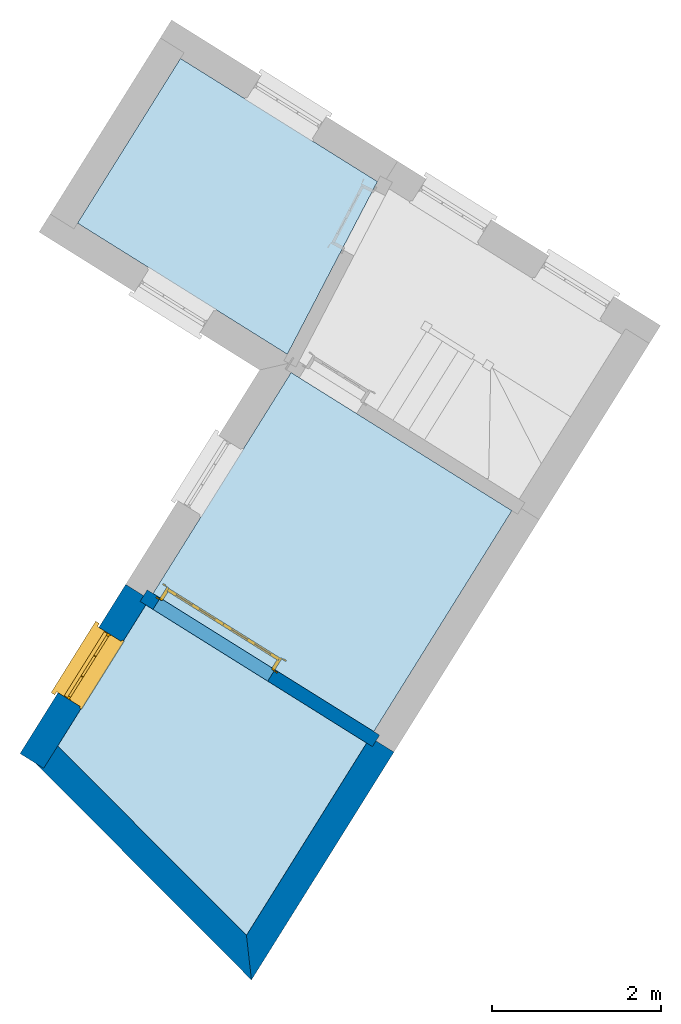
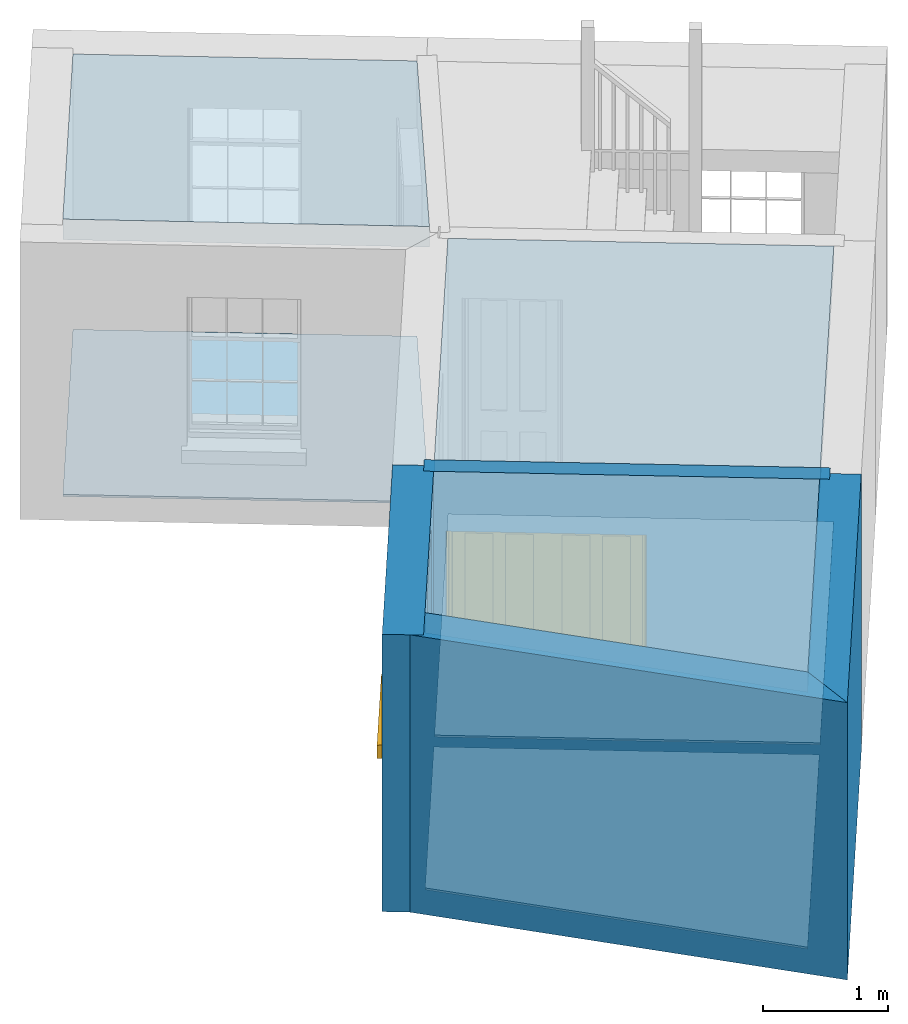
# One storey, part 1 of 4: 6 slabs, 4 walls, 1 door, 1 window, 2 openings.
"""IFC4 building model written with IfcOpenShell, lengths in metres."""

from ifc_helpers import new_model, si_unit, frame, origin, origin_with_axes, place, context, subcontext, project, spatial, polyline, outline, extrude, faceted_brep, source, transform, mapped, material, layer, layer_set, layer_usage, type_object, type_shapes, element, fill, save


model = new_model("IFC4")

# Units and contexts
model_context = context("Model", 3, world=origin_with_axes())
body_context = subcontext(model_context, "Body", "Model", "MODEL_VIEW")
ifc_project = project(units=[si_unit("PLANEANGLEUNIT", "RADIAN"), si_unit("MASSUNIT", "GRAM", prefix="KILO"), si_unit("FORCEUNIT", "NEWTON", prefix="KILO"), si_unit("LENGTHUNIT", "METRE"), si_unit("AREAUNIT", "SQUARE_METRE"), si_unit("VOLUMEUNIT", "CUBIC_METRE")], contexts=[model_context, model_context])

# Sites, building, storey
site_1_placement = place(None, origin_with_axes())
site_1 = spatial("IfcSite", under=ifc_project, at=site_1_placement, Name="Tamar")
site_2_placement = place(site_1_placement, origin_with_axes())
site_2 = spatial("IfcSite", under=site_1, at=site_2_placement, Name="Site plot-3", CompositionType="ELEMENT")
building_placement = place(None, origin_with_axes())
building = spatial("IfcBuilding", under=site_2, at=building_placement, Name="Building plot-3", CompositionType="ELEMENT")
storey_placement = place(None, frame((0.0, 0.0, 27.8), z_axis=(0.0, 0.0, 1.0), x_axis=(1.0, 0.0, 0.0)))
storey = spatial("IfcBuildingStorey", under=building, at=storey_placement, Name="plot-3 1", CompositionType="ELEMENT", Elevation=27.8)

# Slabs
slab_1_placement = place(storey_placement, frame((217.333583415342, 288.215514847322, 2.5)))
element("IfcSlab", 1, at=slab_1_placement, inside=storey, Name="My Slab", ObjectType="Slab", PredefinedType="FLOOR", context=body_context, shape_type="SweptSolid", body=[
    extrude(outline(polyline([(0.0, 0.0), (-2.32896868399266, 1.45571072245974), (-3.54615549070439, -0.49164730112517), (-1.06538868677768, -2.04223871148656), (0.0, 0.0)])), origin_with_axes(), (0.0, 0.0, 1.0), 0.2),
])
slab_2_placement = place(storey_placement, frame((217.333583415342, 288.215514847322, 0.0)))
element("IfcSlab", 2, at=slab_2_placement, inside=storey, Name="My Slab", ObjectType="Slab", PredefinedType="FLOOR", context=body_context, shape_type="SweptSolid", body=[
    extrude(outline(polyline([(0.0, 0.0), (-2.32896868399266, 1.45571072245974), (-3.54615549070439, -0.49164730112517), (-1.06538868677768, -2.04223871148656), (0.0, 0.0)])), origin_with_axes(), (0.0, 0.0, 1.0), 0.02),
])
slab_3_placement = place(storey_placement, frame((218.924084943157, 284.324541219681, 2.5)))
element("IfcSlab", 3, at=slab_3_placement, inside=storey, Name="My Slab", ObjectType="Slab", PredefinedType="FLOOR", context=body_context, shape_type="SweptSolid", body=[
    extrude(outline(polyline([(0.0, 0.0), (-2.61166919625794, 1.63241132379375), (-4.24446656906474, -0.979875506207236), (-1.63279737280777, -2.61228683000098), (0.0, 0.0)])), origin_with_axes(), (0.0, 0.0, 1.0), 0.2),
])
slab_4_placement = place(storey_placement, frame((218.924084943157, 284.324541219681, 0.0)))
element("IfcSlab", 4, at=slab_4_placement, inside=storey, Name="My Slab", ObjectType="Slab", PredefinedType="FLOOR", context=body_context, shape_type="SweptSolid", body=[
    extrude(outline(polyline([(0.0, 0.0), (-2.61166919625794, 1.63241132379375), (-4.24446656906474, -0.979875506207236), (-1.63279737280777, -2.61228683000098), (0.0, 0.0)])), origin_with_axes(), (0.0, 0.0, 1.0), 0.02),
])
slab_5_placement = place(storey_placement, frame((214.594814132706, 283.208988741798, 2.5)))
element("IfcSlab", 5, at=slab_5_placement, inside=storey, Name="My Slab", ObjectType="Slab", PredefinedType="FLOOR", context=body_context, shape_type="SweptSolid", body=[
    extrude(outline(polyline([(0.0, 0.0), (-1.04163771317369, -1.66649979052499), (1.1898205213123, -3.90720465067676), (2.611669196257, -1.63241132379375), (0.0, 0.0)])), origin_with_axes(), (0.0, 0.0, 1.0), 0.2),
])
slab_6_placement = place(storey_placement, frame((214.594814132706, 283.208988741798, 0.0)))
element("IfcSlab", 6, at=slab_6_placement, inside=storey, Name="My Slab", ObjectType="Slab", PredefinedType="FLOOR", context=body_context, shape_type="SweptSolid", body=[
    extrude(outline(polyline([(0.0, 0.0), (-1.04163771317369, -1.66649979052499), (1.1898205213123, -3.90720465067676), (2.611669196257, -1.63241132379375), (0.0, 0.0)])), origin_with_axes(), (0.0, 0.0, 1.0), 0.02),
])

# Wall, opening, window
ifc_material_1 = material(Name="Masonry")
ifc_layer_1 = layer(ifc_material_1, 0.33, ventilated=False)
ifc_layer_set_1 = layer_set([ifc_layer_1], Name="exterior_0.08_0.25")
ifc_layer_usage_1 = layer_usage(ifc_layer_set_1, "AXIS2", "POSITIVE", -0.25)
wall_type_1 = type_object("IfcWallType", Name="exterior_0.08_0.25", PredefinedType="SOLIDWALL", material=ifc_layer_set_1)
wall_1_placement = place(storey_placement, frame((214.569377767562, 283.319229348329, 0.0), z_axis=(0.0, 0.0, 1.0), x_axis=(-0.530026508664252, -0.847981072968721, 0.0)))
wall_1 = element("IfcWall", 7, at=wall_1_placement, inside=storey, type_object=wall_type_1, material=ifc_layer_usage_1, Name="exterior", context=body_context, shape_type="SweptSolid", body=[
    extrude(outline(polyline([(-3.21312274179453e-14, 0.0799999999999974), (1.53892219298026e-13, -0.249999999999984), (2.35876407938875, -0.250000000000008), (2.35876407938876, 0.0799999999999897), (-3.21312274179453e-14, 0.0799999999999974)])), origin_with_axes(), (0.0, 0.0, 1.0), 2.7),
])
opening_1_placement = place(wall_1_placement, frame((0.599382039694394, 0.0, 1.05)))
opening_1 = element("IfcOpeningElement", 8, at=opening_1_placement, cuts=wall_1, Name="My Opening", ObjectType="Opening", context=body_context, shape_type="SweptSolid", body=[
    extrude(outline(polyline([(0.0, -0.269999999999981), (0.909999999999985, -0.270000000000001), (0.909999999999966, 1.09999999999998), (-1.92068583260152e-14, 1.1), (0.0, -0.269999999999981)])), origin_with_axes(), (0.0, 0.0, 1.0), 1.445),
])
window_type = type_object("IfcWindowType", Name="sash_shorter", PartitioningType="DOUBLE_PANEL_HORIZONTAL", PredefinedType="NOTDEFINED")
shared_shape_1 = source(origin(), body_context, "Body", "Brep", [
    faceted_brep([(0.876875, 0.145, 0.999097), (0.876875, 0.145, 1.411875), (0.9, 0.145, 1.435), (0.033125, 0.145, 1.411875), (0.033125, 0.145, 0.999097), (0.01, 0.145, 1.435), (0.033125, 0.115, 1.411875), (0.01, 0.115, 1.435), (0.033125, 0.115, 0.999097), (0.876875, 0.115, 1.411875), (0.876875, 0.115, 0.999097), (0.9, 0.115, 1.435), (0.033125, 0.145, 0.960972), (0.01, 0.145, 0.960972), (0.033125, 0.145, 0.548195), (0.876875, 0.145, 0.960972), (0.876875, 0.145, 0.548195), (0.9, 0.145, 0.960972), (0.876875, 0.145, 0.538195), (0.876875, 0.145, 0.125417), (0.9, 0.145, 0.077167), (0.033125, 0.145, 0.125417), (0.033125, 0.145, 0.538195), (0.01, 0.145, 0.077167), (0.9, 0.115, 0.960972), (0.01, 0.115, 0.960972), (-0.0425, 0.0, 0.01), (-0.0425, -0.05, 0.001667), (0.0, 0.0, 0.01), (0.9525, 0.0, 0.01), (0.91, 0.0, 0.01), (0.9525, -0.05, 0.001667), (-0.02, 0.33, 0.077167), (0.0, 0.33, 0.077167), (-0.02, 0.36, 0.077167), (0.0, 0.19, 0.077167), (0.01, 0.19, 0.077167), (0.91, 0.19, 0.077167), (0.91, 0.33, 0.077167), (0.9, 0.19, 0.077167), (0.93, 0.33, 0.077167), (0.93, 0.36, 0.077167), (0.01, 0.145, 0.999097), (0.01, 0.175, 0.999097), (0.9, 0.145, 0.999097), (0.9, 0.175, 0.999097), (0.876875, 0.175, 0.125417), (0.876875, 0.175, 0.538195), (0.9, 0.175, 0.077167), (0.876875, 0.175, 0.548195), (0.876875, 0.175, 0.960972), (0.033125, 0.175, 0.125417), (0.01, 0.175, 0.077167), (0.033125, 0.175, 0.538195), (0.033125, 0.175, 0.960972), (0.033125, 0.175, 0.548195), (-0.02, 0.33, 0.052167), (-0.02, 0.36, 0.052167), (0.93, 0.36, 0.052167), (0.93, 0.33, 0.052167), (0.91, 0.33, 0.052167), (0.0, 0.33, 0.052167), (0.91, 0.1, 0.026667), (0.0, 0.1, 0.026667), (-0.0425, -0.05, -0.123333), (0.9525, -0.05, -0.123333), (-0.0425, 0.0, -0.123333), (0.9525, 0.0, -0.123333), (0.01, 0.19, 1.435), (0.9, 0.19, 1.435), (0.0, 0.19, 1.445), (0.91, 0.19, 1.445), (0.01, 0.1, 0.077167), (0.9, 0.1, 0.077167), (0.592292, 0.145, 0.125417), (0.592292, 0.175, 0.125417), (0.317708, 0.175, 0.125417), (0.317708, 0.145, 0.125417), (0.592292, 0.145, 0.548195), (0.317708, 0.145, 0.548195), (0.317708, 0.145, 0.538195), (0.592292, 0.145, 0.538195), (0.592292, 0.175, 0.548195), (0.317708, 0.175, 0.548195), (0.602292, 0.175, 0.548195), (0.602292, 0.145, 0.548195), (0.317708, 0.175, 0.538195), (0.307708, 0.175, 0.125417), (0.307708, 0.175, 0.538195), (0.602292, 0.175, 0.538195), (0.602292, 0.175, 0.125417), (0.592292, 0.175, 0.538195), (0.307708, 0.175, 0.548195), (0.317708, 0.175, 0.960972), (0.307708, 0.175, 0.960972), (0.602292, 0.175, 0.960972), (0.592292, 0.175, 0.960972), (0.307708, 0.145, 0.538195), (0.307708, 0.145, 0.125417), (0.307708, 0.145, 0.548195), (0.307708, 0.145, 0.960972), (0.592292, 0.145, 0.960972), (0.317708, 0.145, 0.960972), (0.602292, 0.145, 0.960972), (0.602292, 0.145, 0.538195), (0.602292, 0.145, 0.125417), (0.317708, 0.115, 1.411875), (0.307708, 0.115, 1.411875), (0.307708, 0.115, 0.999097), (0.317708, 0.115, 0.999097), (0.602292, 0.115, 1.411875), (0.592292, 0.115, 1.411875), (0.592292, 0.115, 0.999097), (0.602292, 0.115, 0.999097), (0.317708, 0.145, 0.999097), (0.307708, 0.145, 0.999097), (0.307708, 0.145, 1.411875), (0.317708, 0.145, 1.411875), (0.602292, 0.145, 0.999097), (0.592292, 0.145, 0.999097), (0.592292, 0.145, 1.411875), (0.602292, 0.145, 1.411875), (0.91, 0.1, 1.445), (0.9, 0.1, 1.435), (0.01, 0.1, 1.435), (0.0, 0.1, 1.445), (0.91, 0.0, 0.0), (0.0, 0.0, 0.0), (0.91, 0.33, 0.0), (0.0, 0.33, 0.0)], [[[0, 1, 2]], [[3, 4, 5]], [[6, 7, 8]], [[9, 10, 11]], [[12, 13, 14]], [[15, 16, 17]], [[18, 19, 20]], [[21, 22, 23]], [[24, 15, 17]], [[13, 12, 25]], [[26, 27, 28]], [[29, 30, 31]], [[32, 33, 34]], [[35, 36, 33]], [[37, 38, 39]], [[40, 41, 38]], [[42, 4, 43]], [[44, 45, 0]], [[46, 47, 48]], [[49, 50, 45]], [[51, 52, 53]], [[54, 55, 43]], [[38, 33, 36, 39]], [[41, 34, 33, 38]], [[56, 32, 34, 57]], [[57, 34, 41, 58]], [[58, 41, 40, 59]], [[57, 58, 60, 61]], [[52, 48, 39, 36]], [[62, 63, 28, 30]], [[27, 31, 30, 28]], [[27, 64, 65, 31]], [[66, 67, 65, 64]], [[2, 5, 68, 69]], [[68, 70, 71, 69]], [[20, 23, 72, 73]], [[73, 72, 63, 62]], [[74, 75, 76, 77]], [[78, 79, 80, 81]], [[78, 82, 83, 79]], [[16, 49, 84, 85]], [[86, 76, 87, 88]], [[89, 90, 75, 91]], [[92, 88, 53, 55]], [[82, 91, 86, 83]], [[93, 83, 92, 94]], [[95, 84, 82, 96]], [[89, 84, 49, 47]], [[97, 88, 87, 98]], [[22, 53, 88, 97]], [[81, 91, 75, 74]], [[80, 86, 91, 81]], [[77, 76, 86, 80]], [[99, 92, 55, 14]], [[100, 94, 92, 99]], [[101, 96, 82, 78]], [[79, 83, 93, 102]], [[85, 84, 95, 103]], [[104, 89, 47, 18]], [[105, 90, 89, 104]], [[104, 18, 16, 85]], [[80, 97, 98, 77]], [[104, 81, 74, 105]], [[103, 101, 78, 85]], [[99, 14, 22, 97]], [[102, 100, 99, 79]], [[106, 107, 108, 109]], [[110, 111, 112, 113]], [[114, 115, 116, 117]], [[118, 119, 120, 121]], [[107, 116, 115, 108]], [[111, 120, 119, 112]], [[109, 114, 117, 106]], [[113, 118, 121, 110]], [[85, 78, 81, 104]], [[84, 89, 91, 82]], [[83, 86, 88, 92]], [[79, 99, 97, 80]], [[109, 112, 119, 114]], [[102, 93, 96, 101]], [[106, 117, 120, 111]], [[98, 87, 51, 21]], [[6, 3, 116, 107]], [[110, 121, 1, 9]], [[19, 46, 90, 105]], [[26, 66, 64, 27]], [[29, 31, 65, 67]], [[25, 24, 112, 109]], [[11, 7, 106, 111]], [[75, 48, 52, 76]], [[43, 45, 96, 93]], [[45, 43, 114, 119]], [[5, 2, 120, 117]], [[24, 25, 102, 101]], [[42, 5, 4]], [[2, 44, 0]], [[49, 45, 48, 47]], [[52, 43, 55, 53]], [[14, 13, 23, 22]], [[20, 17, 16, 18]], [[24, 11, 10]], [[25, 8, 7]], [[8, 4, 3, 6]], [[9, 1, 0, 10]], [[15, 50, 49, 16]], [[18, 47, 46, 19]], [[21, 51, 53, 22]], [[14, 55, 54, 12]], [[44, 2, 69, 45]], [[68, 5, 42, 43]], [[36, 35, 70, 68]], [[39, 69, 71, 37]], [[62, 122, 123, 73]], [[63, 72, 124, 125]], [[8, 108, 115, 4]], [[113, 10, 0, 118]], [[94, 100, 12, 54]], [[17, 20, 73, 24]], [[72, 23, 13, 25]], [[52, 36, 68, 43]], [[69, 39, 48, 45]], [[11, 24, 73, 123]], [[7, 124, 72, 25]], [[23, 77, 98]], [[98, 21, 23]], [[105, 74, 20]], [[20, 19, 105]], [[20, 74, 77, 23]], [[113, 112, 24]], [[24, 10, 113]], [[25, 109, 108]], [[108, 8, 25]], [[110, 9, 11]], [[11, 111, 110]], [[7, 6, 107]], [[107, 106, 7]], [[5, 117, 116]], [[116, 3, 5]], [[121, 120, 2]], [[2, 1, 121]], [[11, 123, 124, 7]], [[122, 125, 124, 123]], [[43, 93, 94]], [[94, 54, 43]], [[96, 45, 95]], [[50, 95, 45]], [[15, 103, 95, 50]], [[48, 75, 90]], [[90, 46, 48]], [[87, 76, 52]], [[52, 51, 87]], [[103, 15, 24]], [[24, 101, 103]], [[100, 102, 25]], [[25, 12, 100]], [[115, 114, 43]], [[43, 4, 115]], [[118, 0, 45]], [[45, 119, 118]], [[71, 70, 125, 122]], [[70, 35, 63, 125]], [[122, 62, 37, 71]], [[126, 67, 66, 127]], [[60, 58, 59]], [[38, 60, 59, 40]], [[61, 56, 57]], [[32, 56, 61, 33]], [[61, 60, 128, 129]], [[62, 60, 38, 37]], [[126, 128, 60, 62]], [[33, 61, 63, 35]], [[61, 129, 127, 63]], [[128, 126, 127, 129]], [[28, 127, 66, 26]], [[63, 127, 28]], [[29, 67, 126, 30]], [[30, 126, 62]]]),
])
type_shapes(window_type, [shared_shape_1])
window_placement = place(storey_placement, frame((214.022734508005, 282.95407188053, 1.05), z_axis=(0.0, 0.0, 1.0), x_axis=(-0.482324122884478, -0.771662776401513, 0.0)))
window = element("IfcWindow", 9, at=window_placement, inside=storey, type_object=window_type, Name="kitchen outside window", OverallHeight=1.445, OverallWidth=0.91, context=body_context, shape_type="MappedRepresentation", body=[
    mapped(shared_shape_1, transform((0.0, 0.0, 0.0), scale=1.0)),
])
fill(opening_1, window)

# Walls
ifc_material_2 = material(Name="Masonry")
ifc_layer_2 = layer(ifc_material_2, 0.33, ventilated=False)
ifc_layer_set_2 = layer_set([ifc_layer_2], Name="party_0.08_0.25")
ifc_layer_usage_2 = layer_usage(ifc_layer_set_2, "AXIS2", "POSITIVE", -0.25)
wall_type_2 = type_object("IfcWallType", Name="party_0.08_0.25", PredefinedType="SOLIDWALL", material=ifc_layer_set_2)
wall_2_placement = place(storey_placement, frame((213.451676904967, 281.531037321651, 0.0), z_axis=(0.0, 0.0, 1.0), x_axis=(0.705643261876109, -0.70856727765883, 0.0)))
element("IfcWall", 10, at=wall_2_placement, inside=storey, type_object=wall_type_2, material=ifc_layer_usage_2, Name="party", context=body_context, shape_type="SweptSolid", body=[
    extrude(outline(polyline([(1.14801637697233e-14, 0.0800000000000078), (-1.60331358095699e-14, -0.249999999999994), (3.64150616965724, -0.250000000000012), (3.22581180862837, 0.0799999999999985), (1.14801637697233e-14, 0.0800000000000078)])), origin_with_axes(), (0.0, 0.0, 1.0), 2.7),
])
wall_3_placement = place(storey_placement, frame((215.799060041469, 279.1739271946, 0.0), z_axis=(0.0, 0.0, 1.0), x_axis=(0.530026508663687, 0.847981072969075, 0.0)))
element("IfcWall", 11, at=wall_3_placement, inside=storey, type_object=wall_type_2, material=ifc_layer_usage_2, Name="party", context=body_context, shape_type="SweptSolid", body=[
    extrude(outline(polyline([(0.100774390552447, 0.0800000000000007), (-0.314919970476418, -0.250000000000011), (2.86337356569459, -0.250000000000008), (2.86337356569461, 0.0799999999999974), (0.100774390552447, 0.0800000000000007)])), origin_with_axes(), (0.0, 0.0, 1.0), 2.7),
])

# Wall, opening, door
ifc_material_3 = material(Name="Masonry")
ifc_layer_3 = layer(ifc_material_3, 0.16, ventilated=False)
ifc_layer_set_3 = layer_set([ifc_layer_3], Name="interior_0.08_0.08")
ifc_layer_usage_3 = layer_usage(ifc_layer_set_3, "AXIS2", "POSITIVE", -0.08)
wall_type_3 = type_object("IfcWallType", Name="interior_0.08_0.08", PredefinedType="SOLIDWALL", material=ifc_layer_set_3)
wall_4_placement = place(storey_placement, frame((214.569377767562, 283.319229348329, 0.0), z_axis=(0.0, 0.0, 1.0), x_axis=(0.847981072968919, -0.530026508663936, 0.0)))
wall_4 = element("IfcWall", 12, at=wall_4_placement, inside=storey, type_object=wall_type_3, material=ifc_layer_usage_3, Name="interior", context=body_context, shape_type="SweptSolid", body=[
    extrude(outline(polyline([(-2.30436530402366e-15, 0.0799999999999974), (2.25904099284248e-15, -0.0799999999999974), (3.23986732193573, -0.0799999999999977), (3.23986732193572, 0.0799999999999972), (-2.30436530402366e-15, 0.0799999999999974)])), origin_with_axes(), (0.0, 0.0, 1.0), 2.7),
])
opening_2_placement = place(wall_4_placement, frame((0.179999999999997, 0.0, 0.0199999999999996)))
opening_2 = element("IfcOpeningElement", 13, at=opening_2_placement, cuts=wall_4, Name="My Opening", ObjectType="Opening", context=body_context, shape_type="SweptSolid", body=[
    extrude(outline(polyline([(0.0, -0.0999999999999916), (1.59999999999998, -0.0999999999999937), (1.59999999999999, 1.1), (1.35447209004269e-14, 1.1), (0.0, -0.0999999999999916)])), origin_with_axes(), (0.0, 0.0, 1.0), 2.1),
])
door_type = type_object("IfcDoorType", Name="door_inside_double", OperationType="SINGLE_SWING_LEFT", PredefinedType="NOTDEFINED")
shared_shape_2 = source(origin(), body_context, "Body", "Brep", [
    faceted_brep([(0.14, 0.307, 1.895), (0.14, 0.307, 0.82), (0.363, 0.307, 0.82), (0.363, 0.307, 1.895), (0.14, 0.292, 1.895), (0.14, 0.292, 0.82), (0.363, 0.292, 0.82), (0.363, 0.292, 1.895), (0.027, 0.292, 1.895), (0.027, 0.292, 0.82), (0.363, 0.292, 0.62), (0.14, 0.292, 0.62), (0.463, 0.292, 0.82), (0.463, 0.292, 1.895), (0.363, 0.292, 2.073), (0.14, 0.292, 2.073), (0.027, 0.292, 2.073), (0.027, 0.33, 1.895), (0.027, 0.33, 0.82), (0.027, 0.292, 0.62), (0.463, 0.292, 0.62), (0.14, 0.307, 0.62), (0.363, 0.307, 0.62), (0.463, 0.307, 0.82), (0.463, 0.307, 1.895), (0.463, 0.292, 2.073), (0.14, 0.33, 2.073), (0.363, 0.33, 2.073), (0.027, 0.33, 2.073), (0.14, 0.33, 1.895), (0.14, 0.33, 0.82), (0.027, 0.33, 0.62), (0.027, 0.292, 0.225), (0.14, 0.292, 0.225), (0.363, 0.292, 0.225), (0.463, 0.292, 0.225), (0.686, 0.292, 0.62), (0.686, 0.292, 0.82), (0.14, 0.307, 0.225), (0.363, 0.307, 0.225), (0.686, 0.307, 0.82), (0.686, 0.307, 1.895), (0.686, 0.292, 1.895), (0.686, 0.292, 2.073), (0.463, 0.33, 2.073), (0.363, 0.33, 1.895), (0.14, 0.315, 1.895), (0.14, 0.315, 0.82), (0.14, 0.33, 0.62), (0.027, 0.33, 0.225), (0.027, 0.292, 0.0), (0.14, 0.292, 0.0), (0.363, 0.292, 0.0), (0.463, 0.292, 0.0), (0.463, 0.307, 0.225), (0.463, 0.307, 0.62), (0.686, 0.307, 0.62), (0.799, 0.292, 0.62), (0.799, 0.292, 0.82), (0.799, 0.292, 1.895), (0.799, 0.292, 2.073), (0.686, 0.33, 2.073), (0.463, 0.33, 1.895), (0.363, 0.315, 1.895), (0.363, 0.315, 0.82), (0.363, 0.33, 0.82), (0.363, 0.33, 0.62), (0.14, 0.33, 0.225), (0.027, 0.33, 0.0), (0.14, 0.33, 0.0), (0.363, 0.33, 0.0), (0.463, 0.33, 0.0), (0.686, 0.292, 0.0), (0.686, 0.292, 0.225), (0.686, 0.307, 0.225), (0.799, 0.292, 0.225), (0.799, 0.33, 0.62), (0.799, 0.33, 0.82), (0.799, 0.33, 1.895), (0.799, 0.33, 2.073), (0.686, 0.33, 1.895), (0.463, 0.33, 0.82), (0.463, 0.33, 0.62), (0.363, 0.315, 0.62), (0.14, 0.315, 0.62), (0.14, 0.315, 0.225), (0.363, 0.33, 0.225), (0.463, 0.33, 0.225), (0.686, 0.33, 0.0), (0.799, 0.292, 0.0), (0.799, 0.33, 0.225), (0.686, 0.33, 0.62), (0.686, 0.33, 0.82), (0.686, 0.315, 1.895), (0.463, 0.315, 1.895), (0.463, 0.315, 0.82), (0.363, 0.315, 0.225), (0.686, 0.33, 0.225), (0.799, 0.33, 0.0), (0.686, 0.315, 0.82), (0.463, 0.315, 0.62), (0.463, 0.315, 0.225), (0.686, 0.315, 0.62), (0.686, 0.315, 0.225), (1.46, 0.33, 1.895), (1.237, 0.33, 1.895), (1.237, 0.33, 2.073), (1.46, 0.33, 2.073), (1.46, 0.315, 1.895), (1.237, 0.315, 1.895), (1.137, 0.33, 1.895), (1.137, 0.33, 2.073), (1.237, 0.292, 2.073), (1.46, 0.292, 2.073), (1.573, 0.33, 1.895), (1.573, 0.33, 2.073), (1.46, 0.33, 0.82), (1.46, 0.315, 0.82), (1.237, 0.315, 0.82), (1.237, 0.33, 0.82), (1.137, 0.33, 0.82), (0.914, 0.33, 2.073), (0.914, 0.33, 1.895), (1.137, 0.292, 2.073), (1.237, 0.292, 1.895), (1.46, 0.292, 1.895), (1.573, 0.292, 2.073), (1.573, 0.33, 0.82), (1.573, 0.292, 1.895), (1.237, 0.33, 0.62), (1.137, 0.33, 0.62), (1.137, 0.315, 0.82), (1.137, 0.315, 1.895), (0.914, 0.292, 2.073), (0.914, 0.315, 1.895), (0.801, 0.33, 2.073), (0.801, 0.33, 1.895), (1.137, 0.292, 1.895), (1.237, 0.307, 1.895), (1.46, 0.307, 1.895), (1.573, 0.292, 0.82), (1.573, 0.33, 0.62), (1.46, 0.33, 0.62), (1.237, 0.33, 0.225), (1.137, 0.33, 0.225), (0.914, 0.33, 0.82), (0.914, 0.33, 0.62), (0.914, 0.315, 0.82), (0.801, 0.292, 2.073), (0.914, 0.292, 1.895), (0.801, 0.33, 0.82), (0.801, 0.292, 1.895), (1.137, 0.292, 0.82), (1.237, 0.292, 0.82), (1.237, 0.307, 0.82), (1.46, 0.307, 0.82), (1.46, 0.292, 0.82), (1.573, 0.292, 0.62), (1.573, 0.33, 0.225), (1.46, 0.33, 0.225), (1.46, 0.315, 0.62), (1.237, 0.315, 0.62), (1.237, 0.33, 0.0), (1.137, 0.33, 0.0), (1.137, 0.315, 0.225), (1.137, 0.315, 0.62), (1.237, 0.315, 0.225), (0.914, 0.315, 0.62), (0.801, 0.33, 0.62), (0.914, 0.307, 1.895), (1.137, 0.307, 1.895), (0.801, 0.292, 0.82), (1.137, 0.292, 0.62), (1.237, 0.292, 0.62), (1.137, 0.307, 0.82), (1.46, 0.292, 0.62), (1.573, 0.292, 0.225), (1.573, 0.33, 0.0), (1.46, 0.33, 0.0), (1.46, 0.315, 0.225), (1.237, 0.292, 0.0), (1.137, 0.292, 0.0), (0.914, 0.33, 0.225), (0.914, 0.33, 0.0), (0.914, 0.315, 0.225), (0.801, 0.33, 0.225), (0.801, 0.292, 0.62), (0.914, 0.292, 0.82), (0.914, 0.307, 0.82), (1.137, 0.292, 0.225), (1.237, 0.292, 0.225), (0.914, 0.292, 0.62), (1.46, 0.292, 0.225), (1.573, 0.292, 0.0), (1.46, 0.292, 0.0), (0.914, 0.292, 0.0), (0.801, 0.33, 0.0), (0.801, 0.292, 0.225), (1.237, 0.307, 0.225), (1.237, 0.307, 0.62), (1.137, 0.307, 0.62), (1.137, 0.307, 0.225), (1.46, 0.307, 0.62), (0.914, 0.307, 0.62), (1.46, 0.307, 0.225), (0.914, 0.292, 0.225), (0.801, 0.292, 0.0), (0.914, 0.307, 0.225), (0.02, 0.335, 0.0), (0.005, 0.34, 0.0), (0.005, 0.34, 2.095), (0.02, 0.335, 2.08), (0.02, 0.33, 0.0), (0.0, 0.335, 0.0), (0.0, 0.335, 2.1), (1.595, 0.34, 2.095), (1.58, 0.335, 2.08), (0.02, 0.33, 2.08), (0.0, 0.33, 0.0), (-0.032, 0.345, 0.0), (-0.032, 0.345, 2.132), (1.6, 0.335, 2.1), (1.595, 0.34, 0.0), (1.58, 0.335, 0.0), (1.58, 0.33, 2.08), (0.025, 0.33, 0.0), (0.025, 0.33, 2.075), (-0.04, 0.34, 0.0), (0.025, 0.29, 0.0), (0.0, 0.17, 0.0), (-0.04, 0.34, 2.14), (1.632, 0.345, 2.132), (1.6, 0.335, 0.0), (1.58, 0.33, 0.0), (1.575, 0.33, 2.075), (0.025, 0.29, 2.075), (-0.06, 0.33, 0.0), (0.035, 0.17, 0.0), (0.0, 0.17, 2.1), (0.0, 0.33, 2.1), (-0.04, 0.345, 0.0), (-0.04, 0.345, 2.14), (1.64, 0.34, 2.14), (1.632, 0.345, 0.0), (1.6, 0.33, 0.0), (1.575, 0.33, 0.0), (1.575, 0.29, 2.075), (0.04, 0.29, 0.0), (0.04, 0.29, 2.06), (-0.06, 0.345, 0.0), (-0.06, 0.33, 2.16), (0.015, 0.165, 0.0), (0.04, 0.17, 0.0), (-0.045, 0.17, 2.145), (-0.045, 0.17, 0.0), (1.6, 0.17, 2.1), (1.6, 0.33, 2.1), (-0.06, 0.345, 2.16), (1.64, 0.345, 2.14), (1.64, 0.34, 0.0), (1.6, 0.17, 0.0), (1.575, 0.29, 0.0), (1.56, 0.29, 2.06), (0.04, 0.17, 2.06), (1.66, 0.33, 2.16), (-0.017, 0.155, 0.0), (-0.025, 0.16, 0.0), (0.02, 0.16, 0.0), (0.035, 0.165, 0.0), (0.035, 0.17, 2.065), (1.645, 0.17, 2.145), (-0.045, 0.155, 2.145), (-0.045, 0.155, 0.0), (1.66, 0.345, 2.16), (1.64, 0.345, 0.0), (1.66, 0.33, 0.0), (1.565, 0.17, 0.0), (1.56, 0.29, 0.0), (1.56, 0.17, 2.06), (-0.017, 0.155, 2.117), (-0.025, 0.16, 2.125), (0.015, 0.165, 2.085), (0.02, 0.16, 2.08), (0.035, 0.165, 2.065), (1.565, 0.17, 2.065), (1.645, 0.17, 0.0), (1.645, 0.155, 2.145), (-0.025, 0.155, 0.0), (1.66, 0.345, 0.0), (1.585, 0.165, 0.0), (1.56, 0.17, 0.0), (1.617, 0.155, 2.117), (1.625, 0.16, 2.125), (-0.025, 0.155, 2.125), (1.585, 0.165, 2.085), (1.58, 0.16, 2.08), (1.565, 0.165, 2.065), (1.625, 0.16, 0.0), (1.645, 0.155, 0.0), (1.625, 0.155, 2.125), (1.617, 0.155, 0.0), (1.565, 0.165, 0.0), (1.58, 0.16, 0.0), (1.625, 0.155, 0.0)], [[[0, 1, 2, 3]], [[1, 0, 4, 5]], [[2, 1, 5, 6]], [[6, 7, 3, 2]], [[7, 4, 0, 3]], [[4, 8, 9, 5]], [[10, 6, 5, 11]], [[6, 12, 13, 7]], [[14, 15, 4, 7]], [[15, 16, 8, 4]], [[9, 8, 17, 18]], [[5, 9, 19, 11]], [[10, 20, 12, 6]], [[10, 11, 21, 22]], [[13, 12, 23, 24]], [[7, 13, 25, 14]], [[26, 15, 14, 27]], [[28, 16, 15, 26]], [[8, 16, 28, 17]], [[17, 29, 30, 18]], [[18, 31, 19, 9]], [[11, 19, 32, 33]], [[34, 35, 20, 10]], [[20, 36, 37, 12]], [[11, 33, 38, 21]], [[39, 22, 21, 38]], [[34, 10, 22, 39]], [[12, 37, 40, 23]], [[24, 23, 40, 41]], [[42, 13, 24, 41]], [[13, 42, 43, 25]], [[14, 25, 44, 27]], [[26, 27, 45, 29]], [[28, 26, 29, 17]], [[30, 29, 46, 47]], [[18, 30, 48, 31]], [[31, 49, 32, 19]], [[33, 32, 50, 51]], [[52, 53, 35, 34]], [[20, 35, 54, 55]], [[36, 20, 55, 56]], [[36, 57, 58, 37]], [[33, 34, 39, 38]], [[37, 42, 41, 40]], [[42, 59, 60, 43]], [[44, 25, 43, 61]], [[62, 45, 27, 44]], [[29, 45, 63, 46]], [[46, 63, 64, 47]], [[65, 30, 47, 64]], [[30, 65, 66, 48]], [[31, 48, 67, 49]], [[68, 50, 32, 49]], [[68, 69, 51, 50]], [[34, 33, 51, 52]], [[53, 52, 70, 71]], [[53, 72, 73, 35]], [[35, 73, 74, 54]], [[55, 54, 74, 56]], [[73, 36, 56, 74]], [[73, 75, 57, 36]], [[57, 76, 77, 58]], [[37, 58, 59, 42]], [[78, 79, 60, 59]], [[60, 79, 61, 43]], [[80, 62, 44, 61]], [[81, 65, 45, 62]], [[45, 65, 64, 63]], [[82, 66, 65, 81]], [[48, 66, 83, 84]], [[67, 48, 84, 85]], [[49, 67, 69, 68]], [[52, 51, 69, 70]], [[71, 70, 86, 87]], [[72, 53, 71, 88]], [[72, 89, 75, 73]], [[75, 90, 76, 57]], [[76, 91, 92, 77]], [[78, 59, 58, 77]], [[78, 80, 61, 79]], [[62, 80, 93, 94]], [[81, 62, 94, 95]], [[87, 86, 66, 82]], [[91, 82, 81, 92]], [[66, 86, 96, 83]], [[84, 83, 96, 85]], [[86, 67, 85, 96]], [[67, 86, 70, 69]], [[88, 71, 87, 97]], [[89, 72, 88, 98]], [[89, 98, 90, 75]], [[90, 97, 91, 76]], [[80, 78, 77, 92]], [[80, 92, 99, 93]], [[99, 95, 94, 93]], [[92, 81, 95, 99]], [[87, 82, 100, 101]], [[82, 91, 102, 100]], [[97, 87, 101, 103]], [[98, 88, 97, 90]], [[91, 97, 103, 102]], [[103, 101, 100, 102]], [[104, 105, 106, 107]], [[105, 104, 108, 109]], [[105, 110, 111, 106]], [[106, 112, 113, 107]], [[114, 104, 107, 115]], [[104, 116, 117, 108]], [[117, 118, 109, 108]], [[119, 105, 109, 118]], [[119, 120, 110, 105]], [[121, 111, 110, 122]], [[123, 112, 106, 111]], [[124, 125, 113, 112]], [[126, 115, 107, 113]], [[104, 114, 127, 116]], [[114, 115, 126, 128]], [[116, 119, 118, 117]], [[129, 130, 120, 119]], [[110, 120, 131, 132]], [[121, 133, 123, 111]], [[122, 110, 132, 134]], [[135, 121, 122, 136]], [[137, 124, 112, 123]], [[125, 124, 138, 139]], [[125, 128, 126, 113]], [[114, 128, 140, 127]], [[141, 142, 116, 127]], [[142, 129, 119, 116]], [[143, 144, 130, 129]], [[145, 120, 130, 146]], [[120, 145, 147, 131]], [[134, 132, 131, 147]], [[135, 148, 133, 121]], [[123, 133, 149, 137]], [[145, 122, 134, 147]], [[136, 122, 145, 150]], [[151, 148, 135, 136]], [[152, 153, 124, 137]], [[124, 153, 154, 138]], [[138, 154, 155, 139]], [[156, 125, 139, 155]], [[156, 140, 128, 125]], [[157, 141, 127, 140]], [[158, 159, 142, 141]], [[129, 142, 160, 161]], [[162, 163, 144, 143]], [[130, 144, 164, 165]], [[143, 129, 161, 166]], [[146, 130, 165, 167]], [[150, 145, 146, 168]], [[133, 148, 151, 149]], [[137, 149, 169, 170]], [[171, 151, 136, 150]], [[172, 173, 153, 152]], [[152, 137, 170, 174]], [[153, 156, 155, 154]], [[175, 157, 140, 156]], [[176, 158, 141, 157]], [[177, 178, 159, 158]], [[142, 159, 179, 160]], [[179, 166, 161, 160]], [[180, 181, 163, 162]], [[182, 144, 163, 183]], [[178, 162, 143, 159]], [[144, 182, 184, 164]], [[167, 165, 164, 184]], [[159, 143, 166, 179]], [[182, 146, 167, 184]], [[168, 146, 182, 185]], [[150, 168, 186, 171]], [[149, 151, 171, 187]], [[149, 187, 188, 169]], [[169, 188, 174, 170]], [[189, 190, 173, 172]], [[173, 175, 156, 153]], [[172, 152, 187, 191]], [[187, 152, 174, 188]], [[192, 176, 157, 175]], [[193, 177, 158, 176]], [[193, 194, 178, 177]], [[181, 180, 190, 189]], [[181, 195, 183, 163]], [[194, 180, 162, 178]], [[185, 182, 183, 196]], [[168, 185, 197, 186]], [[187, 171, 186, 191]], [[173, 190, 198, 199]], [[189, 172, 200, 201]], [[175, 173, 199, 202]], [[172, 191, 203, 200]], [[194, 193, 176, 192]], [[192, 175, 202, 204]], [[180, 194, 192, 190]], [[189, 205, 195, 181]], [[196, 183, 195, 206]], [[196, 206, 197, 185]], [[191, 186, 197, 205]], [[190, 192, 204, 198]], [[199, 198, 204, 202]], [[201, 200, 203, 207]], [[205, 189, 201, 207]], [[191, 205, 207, 203]], [[205, 197, 206, 195]], [[208, 209, 210, 211]], [[208, 212, 213, 209]], [[209, 213, 214, 210]], [[211, 210, 215, 216]], [[211, 217, 212, 208]], [[218, 213, 212]], [[213, 219, 220, 214]], [[210, 214, 221, 215]], [[216, 215, 222, 223]], [[217, 211, 216, 224]], [[225, 212, 217, 226]], [[219, 213, 218, 227]], [[218, 212, 228, 229]], [[219, 227, 230, 220]], [[214, 220, 231, 221]], [[215, 221, 232, 222]], [[222, 232, 233, 223]], [[224, 216, 223, 233]], [[226, 217, 224, 234]], [[225, 228, 212]], [[235, 228, 225, 226]], [[236, 227, 218]], [[237, 229, 228]], [[229, 238, 239, 218]], [[227, 240, 241, 230]], [[220, 230, 242, 231]], [[221, 231, 243, 232]], [[244, 233, 232]], [[234, 224, 233, 245]], [[246, 235, 226, 234]], [[247, 228, 235, 248]], [[240, 227, 236, 249]], [[239, 250, 236, 218]], [[251, 229, 237]], [[252, 237, 228, 247]], [[253, 238, 229, 254]], [[238, 255, 256, 239]], [[241, 240, 257]], [[230, 241, 258, 242]], [[231, 242, 259, 243]], [[259, 244, 232, 243]], [[260, 261, 233, 244]], [[245, 233, 261]], [[261, 246, 234, 245]], [[248, 235, 246, 262]], [[248, 263, 252, 247]], [[250, 257, 249, 236]], [[240, 249, 257]], [[256, 264, 250, 239]], [[265, 266, 229, 251]], [[267, 251, 237, 268]], [[263, 269, 237, 252]], [[270, 255, 238, 253]], [[229, 266, 254]], [[271, 253, 254, 272]], [[256, 255, 260, 244]], [[273, 241, 257]], [[273, 258, 241]], [[242, 258, 274, 259]], [[275, 244, 259]], [[260, 276, 261]], [[261, 277, 262, 246]], [[262, 278, 263, 248]], [[264, 273, 257, 250]], [[244, 275, 264, 256]], [[266, 265, 279, 280]], [[265, 251, 281, 279]], [[251, 267, 282, 281]], [[269, 283, 268, 237]], [[267, 268, 283, 282]], [[278, 284, 269, 263]], [[285, 260, 255, 270]], [[286, 270, 253, 271]], [[272, 254, 266, 287]], [[271, 272, 287]], [[273, 274, 258]], [[288, 275, 259, 274]], [[276, 260, 289]], [[277, 261, 276, 290]], [[278, 262, 277, 290]], [[275, 288, 273, 264]], [[280, 279, 291, 292]], [[287, 266, 280, 293]], [[279, 281, 294, 291]], [[281, 282, 295, 294]], [[284, 296, 283, 269]], [[282, 283, 296, 295]], [[290, 276, 284, 278]], [[285, 297, 260]], [[298, 285, 270, 286]], [[299, 286, 271]], [[271, 287, 293]], [[273, 288, 274]], [[300, 289, 260, 297]], [[301, 276, 289, 302]], [[292, 291, 300, 297]], [[293, 280, 292, 299]], [[291, 294, 289, 300]], [[294, 295, 302, 289]], [[296, 284, 276, 301]], [[295, 296, 301, 302]], [[303, 297, 285, 298]], [[299, 298, 286]], [[271, 293, 299]], [[299, 292, 297, 303]], [[299, 303, 298]]]),
])
type_shapes(door_type, [shared_shape_2])
door_placement = place(storey_placement, frame((214.66901170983, 283.139026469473, 0.0199999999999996), z_axis=(0.0, 0.0, 1.0), x_axis=(1.35676971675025, -0.848042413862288, 0.0)))
door = element("IfcDoor", 14, at=door_placement, inside=storey, type_object=door_type, Name="kitchen living inside door", OverallHeight=2.1, OverallWidth=1.6, context=body_context, shape_type="MappedRepresentation", body=[
    mapped(shared_shape_2, transform((0.0, 0.0, 0.0), scale=1.0)),
])
fill(opening_2, door)

save(model, "model.ifc")
